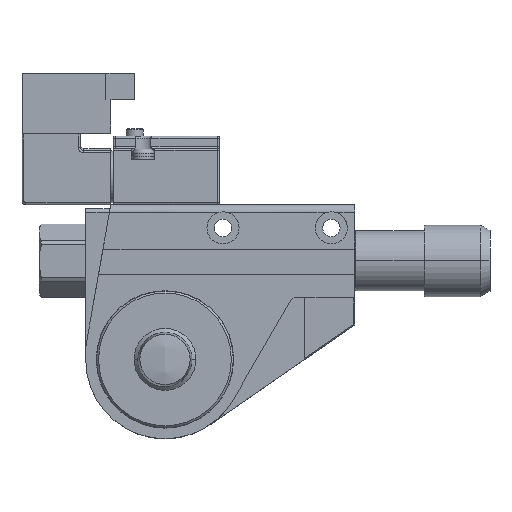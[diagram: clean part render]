
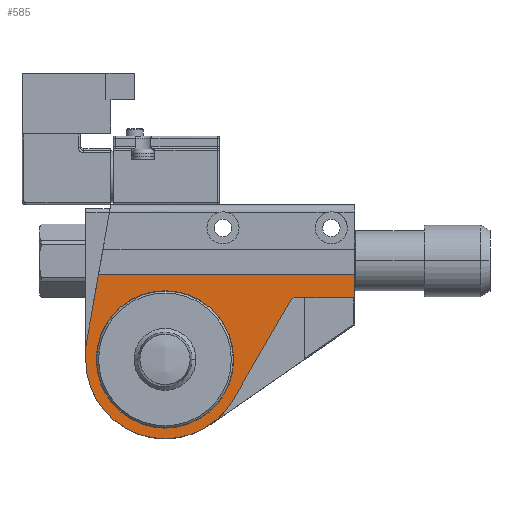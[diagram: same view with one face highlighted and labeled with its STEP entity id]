
A CAD part, top view. The second image highlights one B-rep face of the part: STEP entity #585.
In plain terms, the highlighted planar face has unit normal (0, 0, 1).
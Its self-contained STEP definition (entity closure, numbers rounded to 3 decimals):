
#585=ADVANCED_FACE('',(#1324,#1325),#1323,.T.);
#1323=PLANE('',#5893);
#1324=FACE_OUTER_BOUND('',#5894,.T.);
#1325=FACE_BOUND('',#5895,.T.);
#5890=CARTESIAN_POINT('',(-6.95,-68.459,20.));
#5891=DIRECTION('',(0.,0.,1.));
#5892=DIRECTION('',(1.,0.,0.));
#5893=AXIS2_PLACEMENT_3D('',#5890,#5891,#5892);
#5894=EDGE_LOOP('',(#8873,#8874,#8875,#8876,#8877,#8878,#8879,#8880));
#5895=EDGE_LOOP('',(#8881,#8882));
#8873=ORIENTED_EDGE('',*,*,#11029,.F.);
#8874=ORIENTED_EDGE('',*,*,#11024,.F.);
#8875=ORIENTED_EDGE('',*,*,#11030,.T.);
#8876=ORIENTED_EDGE('',*,*,#10962,.T.);
#8877=ORIENTED_EDGE('',*,*,#11017,.F.);
#8878=ORIENTED_EDGE('',*,*,#11014,.F.);
#8879=ORIENTED_EDGE('',*,*,#11031,.T.);
#8880=ORIENTED_EDGE('',*,*,#11032,.T.);
#8881=ORIENTED_EDGE('',*,*,#11033,.F.);
#8882=ORIENTED_EDGE('',*,*,#11034,.F.);
#10962=EDGE_CURVE('',#12379,#12372,#12380,.T.);
#11014=EDGE_CURVE('',#12734,#12735,#12736,.T.);
#11017=EDGE_CURVE('',#12735,#12372,#12754,.T.);
#11024=EDGE_CURVE('',#12792,#12799,#12800,.T.);
#11029=EDGE_CURVE('',#12799,#12832,#12833,.T.);
#11030=EDGE_CURVE('',#12792,#12379,#12839,.T.);
#11031=EDGE_CURVE('',#12734,#12845,#12846,.T.);
#11032=EDGE_CURVE('',#12845,#12832,#12852,.T.);
#11033=EDGE_CURVE('',#12858,#12859,#12860,.T.);
#11034=EDGE_CURVE('',#12859,#12858,#12866,.T.);
#12372=VERTEX_POINT('',#19495);
#12379=VERTEX_POINT('',#19499);
#12380=CIRCLE('',#19503,20.492);
#12734=VERTEX_POINT('',#19789);
#12735=VERTEX_POINT('',#19790);
#12736=CIRCLE('',#19794,2.);
#12754=LINE('',#19801,#19802);
#12792=VERTEX_POINT('',#19824);
#12799=VERTEX_POINT('',#19828);
#12800=LINE('',#19829,#19830);
#12832=VERTEX_POINT('',#19847);
#12833=LINE('',#19848,#19849);
#12839=LINE('',#19851,#19852);
#12845=VERTEX_POINT('',#19854);
#12846=LINE('',#19855,#19856);
#12852=LINE('',#19858,#19859);
#12858=VERTEX_POINT('',#19861);
#12859=VERTEX_POINT('',#19862);
#12860=CIRCLE('',#19866,17.75);
#12866=CIRCLE('',#19870,17.75);
#19495=CARTESIAN_POINT('',(38.239,-50.254,20.));
#19499=CARTESIAN_POINT('',(0.,-40.008,20.));
#19500=CARTESIAN_POINT('',(20.492,-40.008,20.));
#19501=DIRECTION('',(0.,0.,1.));
#19502=DIRECTION('',(1.,0.,0.));
#19503=AXIS2_PLACEMENT_3D('',#19500,#19501,#19502);
#19789=CARTESIAN_POINT('',(54.551,-24.,20.));
#19790=CARTESIAN_POINT('',(52.819,-25.,20.));
#19791=CARTESIAN_POINT('',(54.551,-26.,20.));
#19792=DIRECTION('',(0.,0.,1.));
#19793=DIRECTION('',(0.,-1.,0.));
#19794=AXIS2_PLACEMENT_3D('',#19791,#19792,#19793);
#19801=CARTESIAN_POINT('',(52.819,-25.,20.));
#19802=VECTOR('',#19803,29.161);
#19803=DIRECTION('',(-0.5,-0.866,0.));
#19824=CARTESIAN_POINT('',(0.,-36.863,20.));
#19828=CARTESIAN_POINT('',(3.326,-18.,20.));
#19829=CARTESIAN_POINT('',(0.,-36.863,20.));
#19830=VECTOR('',#19831,19.154);
#19831=DIRECTION('',(0.174,0.985,0.));
#19847=CARTESIAN_POINT('',(69.5,-18.,20.));
#19848=CARTESIAN_POINT('',(3.326,-18.,20.));
#19849=VECTOR('',#19850,66.174);
#19850=DIRECTION('',(1.,0.,0.));
#19851=CARTESIAN_POINT('',(0.,-36.863,20.));
#19852=VECTOR('',#19853,3.145);
#19853=DIRECTION('',(0.,-1.,0.));
#19854=CARTESIAN_POINT('',(69.5,-24.,20.));
#19855=CARTESIAN_POINT('',(54.551,-24.,20.));
#19856=VECTOR('',#19857,14.949);
#19857=DIRECTION('',(1.,0.,0.));
#19858=CARTESIAN_POINT('',(69.5,-24.,20.));
#19859=VECTOR('',#19860,6.);
#19860=DIRECTION('',(0.,1.,0.));
#19861=CARTESIAN_POINT('',(2.75,-40.,20.));
#19862=CARTESIAN_POINT('',(38.25,-40.,20.));
#19863=CARTESIAN_POINT('',(20.5,-40.,20.));
#19864=DIRECTION('',(0.,0.,1.));
#19865=DIRECTION('',(1.,0.,0.));
#19866=AXIS2_PLACEMENT_3D('',#19863,#19864,#19865);
#19867=CARTESIAN_POINT('',(20.5,-40.,20.));
#19868=DIRECTION('',(0.,0.,1.));
#19869=DIRECTION('',(1.,0.,0.));
#19870=AXIS2_PLACEMENT_3D('',#19867,#19868,#19869);
